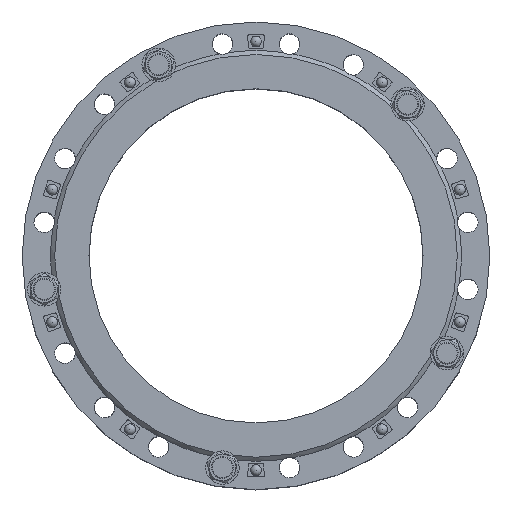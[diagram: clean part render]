
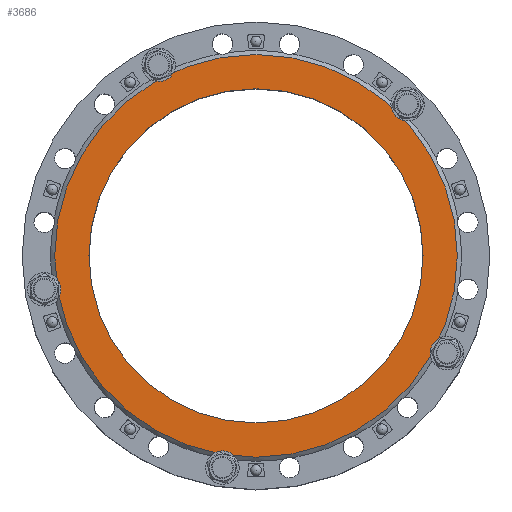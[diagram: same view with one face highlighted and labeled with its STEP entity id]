
A CAD part, top view. The second image highlights one B-rep face of the part: STEP entity #3686.
In plain terms, the highlighted planar face has unit normal (0, 0, 1) as drawn and (0, 0, -1) by its records, which use the part's own axes.
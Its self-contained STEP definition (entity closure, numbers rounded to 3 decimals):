
#3686=ADVANCED_FACE('',(#5786,#5788),#5790,.F.);
#5786=FACE_BOUND('',#5787,.T.);
#5787=EDGE_LOOP('',(#8443));
#5788=FACE_BOUND('',#5789,.T.);
#5789=EDGE_LOOP('',(#8444));
#5790=PLANE('',#5791);
#5791=AXIS2_PLACEMENT_3D('',#5792,#5793,#5794);
#5792=CARTESIAN_POINT('',(0.,0.,0.));
#5793=DIRECTION('',(0.,0.,1.));
#5794=DIRECTION('',(-1.,0.,0.));
#8443=ORIENTED_EDGE('',*,*,#9497,.F.);
#8444=ORIENTED_EDGE('',*,*,#9659,.T.);
#9497=EDGE_CURVE('',#10887,#10887,#10888,.T.);
#9659=EDGE_CURVE('',#11131,#11131,#11132,.T.);
#10887=VERTEX_POINT('',#19678);
#10888=CIRCLE('',#19679,361.6);
#11131=VERTEX_POINT('',#20288);
#11132=CIRCLE('',#20289,300.);
#19678=CARTESIAN_POINT('',(-361.6,0.,0.));
#19679=AXIS2_PLACEMENT_3D('',#19680,#19681,#19682);
#19680=CARTESIAN_POINT('',(0.,0.,0.));
#19681=DIRECTION('',(0.,0.,1.));
#19682=DIRECTION('',(-1.,0.,0.));
#20288=CARTESIAN_POINT('',(-300.,0.,0.));
#20289=AXIS2_PLACEMENT_3D('',#20290,#20291,#20292);
#20290=CARTESIAN_POINT('',(0.,0.,0.));
#20291=DIRECTION('',(0.,0.,1.));
#20292=DIRECTION('',(-1.,0.,0.));
